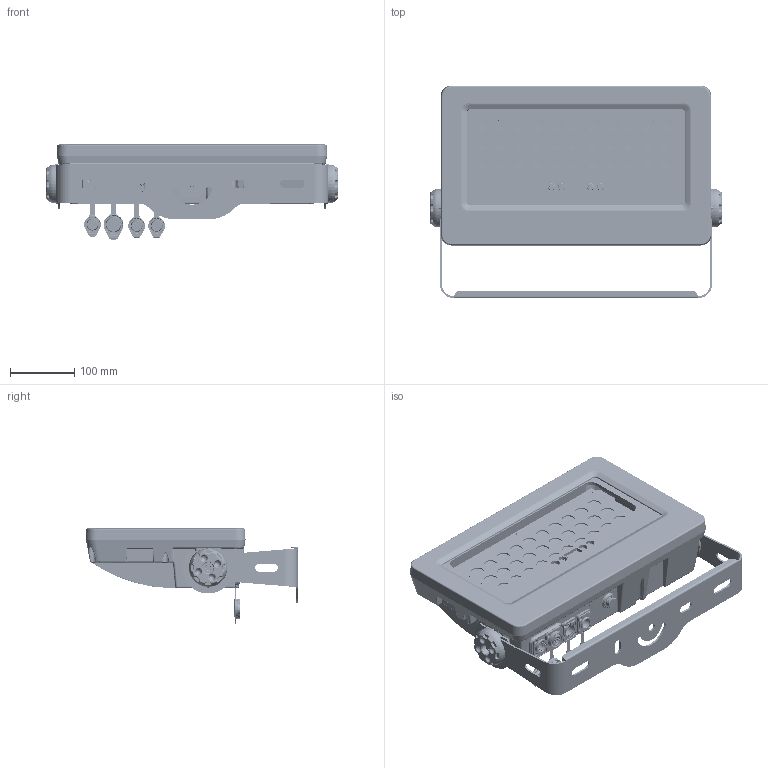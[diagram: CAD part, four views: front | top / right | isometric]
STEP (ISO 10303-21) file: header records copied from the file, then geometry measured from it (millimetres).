
FILE_DESCRIPTION((''),'2;1');
FILE_NAME('UV-27_ASM','2017-01-11T',('qiuhaisheng'),(''),'PRO/ENGINEER BY PARAMETRIC TECHNOLOGY CORPORATION, 2012310','PRO/ENGINEER BY PARAMETRIC TECHNOLOGY CORPORATION, 2012310','');
FILE_SCHEMA(('CONFIG_CONTROL_DESIGN'));
Products named in the file (30): 20160608-01; 20160608-04; 20160608-05; 20160608-06; 20160608-07; 20160608-09; 20160608-10; 20160608_ASM; 20160808-01; 20161123-04; 20160808_ASM; _J3F2C-W; J3F2C-W_ASM; 20161031-02; GAIBAN; K3F2C-W_1; K3F2C-W_2; ASSEMBLY_1_ASM; K3F2C-W_ASM; NEUTRIK_2; POWERCON-FANGSHUIGAI; 3D_NAC3FPX; POWERCON-IP65_ASM; 20161123-01; 20161123-03; 20161123-06; 20161123-05; 20161123-07; 20161126-02; UV-27_ASM
Assembly tree (147 placements, depth 4):
  UV-27_ASM
    20160608-01
    20160608_ASM
      20160608-04
      20160608-05  x105
      20160608-06  x12
      20160608-07
      20160608-09
      20160608-10
    20160808_ASM
      20160808-01
      20161123-04
    J3F2C-W_ASM
      _J3F2C-W
    20161031-02
    K3F2C-W_ASM
      ASSEMBLY_1_ASM
        GAIBAN
        K3F2C-W_1
        K3F2C-W_2
    NEUTRIK_2
    POWERCON-IP65_ASM
      POWERCON-FANGSHUIGAI
      3D_NAC3FPX
    20161123-01  x2
    20161123-03
    20161123-06  x2
    20161123-05
    20161123-07  x2
    20161126-02
Bounding box: 453 x 330.51 x 147.7 mm (x, y, z)
Volume: 3187550.7 mm3; surface area: 1520103.1 mm2
Topology: 150 solids, 151 shells, 9780 faces, 25735 edges, 16481 vertices
Faces by surface type: plane 4659, cylinder 2377, bspline 801, torus 549, cone 548, sphere 465, extrusion 381
Entity records: 257446 total; most frequent: CARTESIAN_POINT 105921, ORIENTED_EDGE 32176, DIRECTION 30183, EDGE_CURVE 16088, AXIS2_PLACEMENT_3D 11308, VERTEX_POINT 10433, VECTOR 7567, LINE 7186
